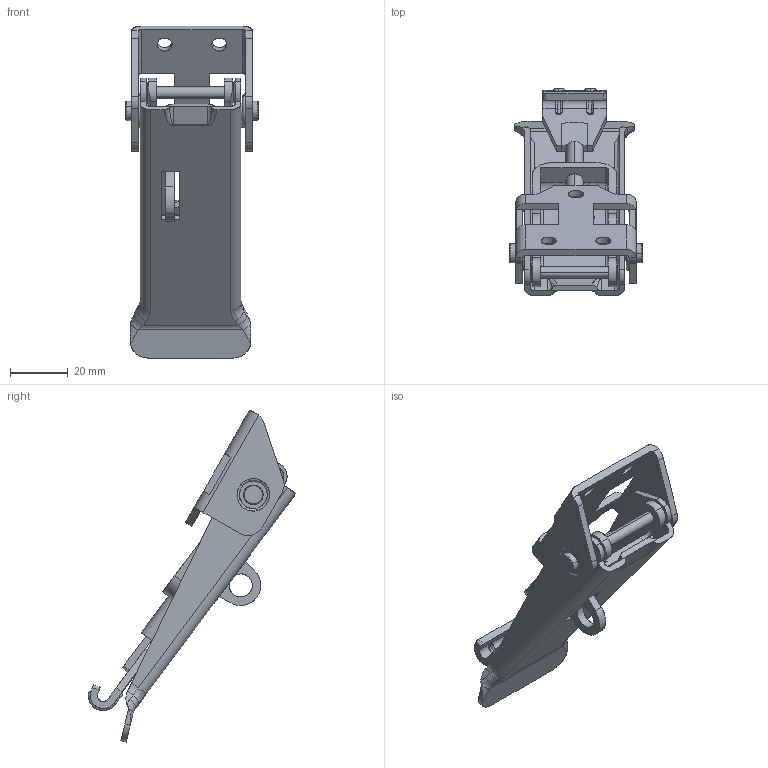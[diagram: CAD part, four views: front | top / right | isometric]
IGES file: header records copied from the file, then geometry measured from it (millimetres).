
Start section: SolidWorks IGES file using analytic representation for surfaces
Global section: file name: C:\Users\cbrechard\Desktop\GR 2063.IGS; native system: SolidWorks 2017; preprocessor: SolidWorks 2017; author: cbrechard; date: 190909.175523; units: millimetre
Bounding box: 46 x 72.16 x 115.49 mm (x, y, z)
Surface area: 27804.9 mm2 (no closed solid volume)
Topology: 0 solids, 0 shells, 315 faces, 4496 edges, 4494 vertices
Faces by surface type: bspline 175, revolution 140
